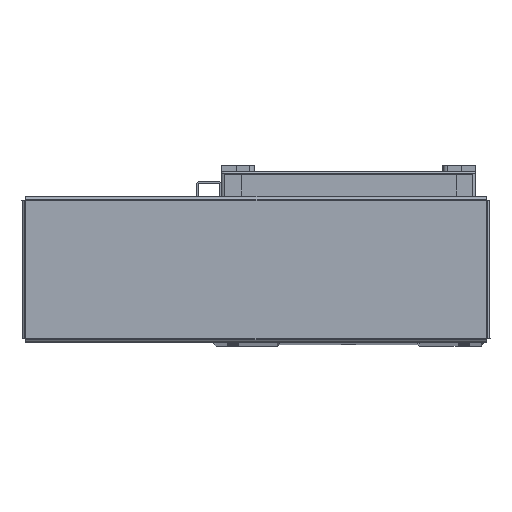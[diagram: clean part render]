
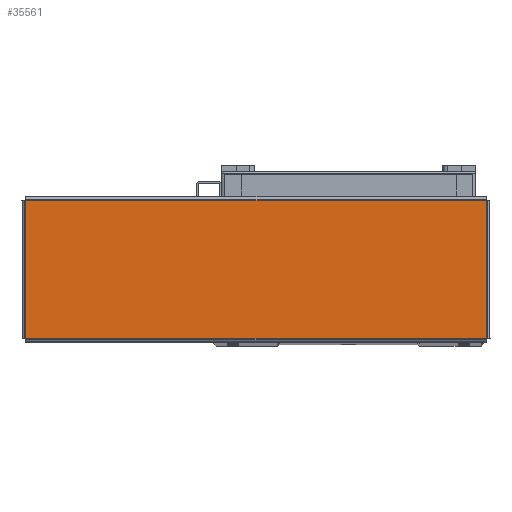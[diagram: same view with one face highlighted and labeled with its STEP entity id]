
A CAD part, top view. The second image highlights one B-rep face of the part: STEP entity #35561.
In plain terms, the highlighted planar face has unit normal (0, 0, 1) as drawn and (0, -1, 0) by its records, which use the part's own axes.
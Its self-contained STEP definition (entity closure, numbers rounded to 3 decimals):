
#1171 = FACE_OUTER_BOUND ( 'NONE', #49223, .T. ) ;
#2009 = CARTESIAN_POINT ( 'NONE',  ( 139.293, -1.5, 41.763 ) ) ;
#2037 = DIRECTION ( 'NONE',  ( -1., 0., 0. ) ) ;
#2068 = DIRECTION ( 'NONE',  ( 1., 0., 0. ) ) ;
#2073 = CARTESIAN_POINT ( 'NONE',  ( -139.293, -1.5, -41.763 ) ) ;
#7949 = VECTOR ( 'NONE', #2037, 1000. ) ;
#7959 = LINE ( 'NONE', #2009, #7949 ) ;
#8016 = VECTOR ( 'NONE', #2068, 1000. ) ;
#8044 = LINE ( 'NONE', #2073, #8016 ) ;
#8118 = LINE ( 'NONE', #45368, #8125 ) ;
#8125 = VECTOR ( 'NONE', #45365, 1000. ) ;
#8307 = VECTOR ( 'NONE', #45678, 1000. ) ;
#8369 = LINE ( 'NONE', #45690, #8307 ) ;
#23313 = DIRECTION ( 'NONE',  ( 0., 1., 0. ) ) ;
#23317 = DIRECTION ( 'NONE',  ( 0., 0., 1. ) ) ;
#23362 = PLANE ( 'NONE',  #40757 ) ;
#23398 = CARTESIAN_POINT ( 'NONE',  ( 0., -1.5, 0. ) ) ;
#25801 = VERTEX_POINT ( 'NONE', #50273 ) ;
#25802 = VERTEX_POINT ( 'NONE', #50263 ) ;
#25816 = VERTEX_POINT ( 'NONE', #50211 ) ;
#25835 = VERTEX_POINT ( 'NONE', #50254 ) ;
#34603 = EDGE_CURVE ( 'NONE', #25816, #25802, #7959, .T. ) ;
#34614 = EDGE_CURVE ( 'NONE', #25835, #25801, #8044, .T. ) ;
#34715 = EDGE_CURVE ( 'NONE', #25802, #25835, #8118, .T. ) ;
#34814 = EDGE_CURVE ( 'NONE', #25801, #25816, #8369, .T. ) ;
#35561 = ADVANCED_FACE ( 'NONE', ( #1171 ), #23362, .F. ) ;
#40757 = AXIS2_PLACEMENT_3D ( 'NONE', #23398, #23313, #23317 ) ;
#45365 = DIRECTION ( 'NONE',  ( 0., 0., -1. ) ) ;
#45368 = CARTESIAN_POINT ( 'NONE',  ( -139.263, -1.5, 41.793 ) ) ;
#45678 = DIRECTION ( 'NONE',  ( 0., 0., 1. ) ) ;
#45690 = CARTESIAN_POINT ( 'NONE',  ( 139.263, -1.5, -41.793 ) ) ;
#49144 = ORIENTED_EDGE ( 'NONE', *, *, #34614, .T. ) ;
#49157 = ORIENTED_EDGE ( 'NONE', *, *, #34603, .T. ) ;
#49158 = ORIENTED_EDGE ( 'NONE', *, *, #34814, .T. ) ;
#49162 = ORIENTED_EDGE ( 'NONE', *, *, #34715, .T. ) ;
#49223 = EDGE_LOOP ( 'NONE', ( #49158, #49157, #49162, #49144 ) ) ;
#50211 = CARTESIAN_POINT ( 'NONE',  ( 139.263, -1.5, 41.763 ) ) ;
#50254 = CARTESIAN_POINT ( 'NONE',  ( -139.263, -1.5, -41.763 ) ) ;
#50263 = CARTESIAN_POINT ( 'NONE',  ( -139.263, -1.5, 41.763 ) ) ;
#50273 = CARTESIAN_POINT ( 'NONE',  ( 139.263, -1.5, -41.763 ) ) ;
